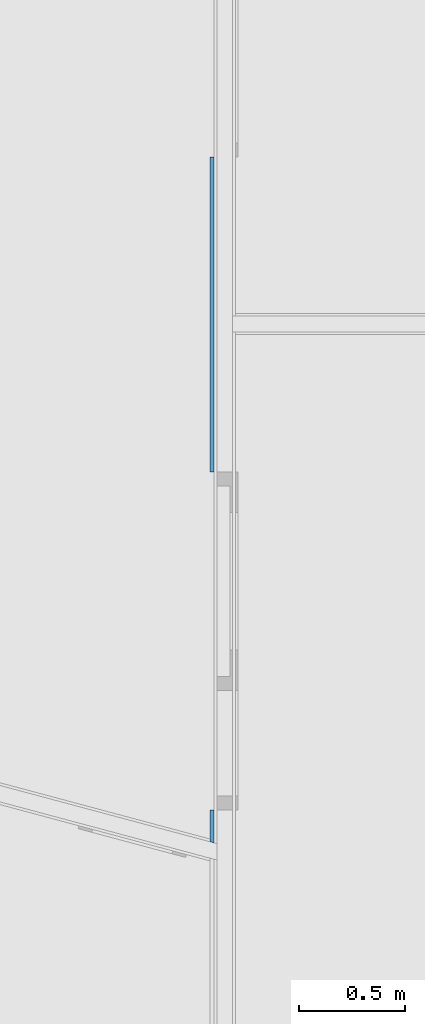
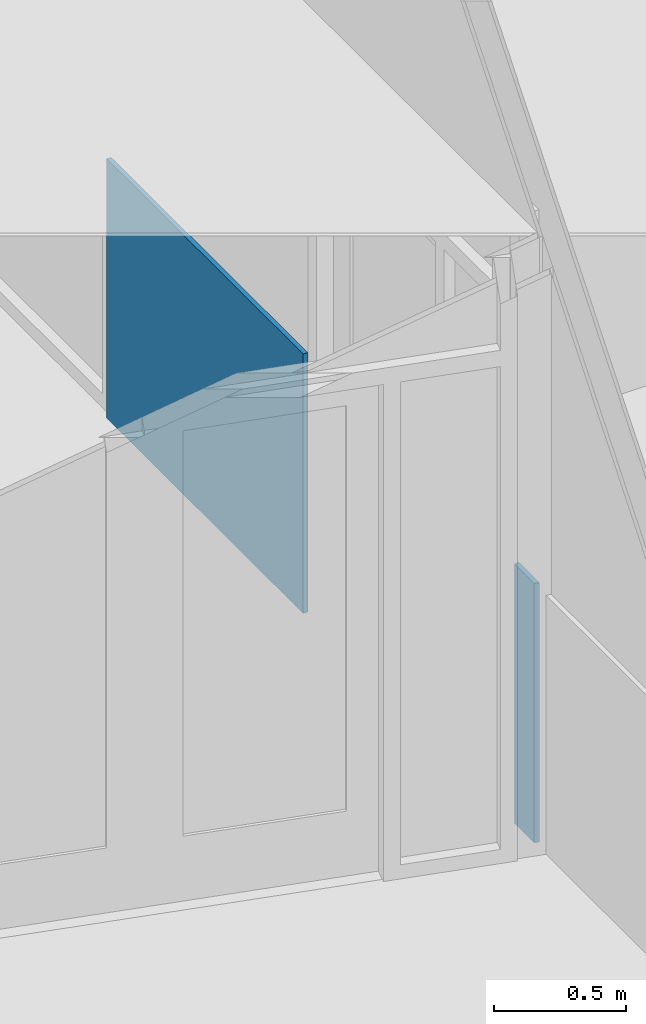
# One storey, part 13 of 167: 2 walls.
"""IFC2X3 building model written with IfcOpenShell, lengths in millimetres."""

from ifc_helpers import new_model, entity, si_unit, converted_unit, derived_unit, money_unit, direction, frame, origin_with_axes, place, context, subcontext, project, spatial, faceted_brep, material, type_object, element, save


model = new_model("IFC2X3")

# Units and contexts
model_context = context("Model", 3, precision=0.01, world=origin_with_axes(), true_north=direction((0.0, 1.0)))
plan_context = context("Plan", 3, precision=0.01, world=origin_with_axes(), true_north=direction((0.0, 1.0)))
body_context = subcontext(model_context, "Body", "Model", "MODEL_VIEW")
ifc_project = project(units=[si_unit("LENGTHUNIT", "METRE", prefix="MILLI"), si_unit("AREAUNIT", "SQUARE_METRE"), si_unit("VOLUMEUNIT", "CUBIC_METRE"), converted_unit("PLANEANGLEUNIT", "DEGREE", entity("IfcPlaneAngleMeasure", 0.0174532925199), si_unit("PLANEANGLEUNIT", "RADIAN"), dimensions=[0, 0, 0, 0, 0, 0, 0]), si_unit("SOLIDANGLEUNIT", "STERADIAN"), money_unit("EUR"), converted_unit("TIMEUNIT", "Year", entity("IfcTimeMeasure", 31556926.0), si_unit("TIMEUNIT", "SECOND"), dimensions=[0, 0, 1, 0, 0, 0, 0]), si_unit("MASSUNIT", "GRAM", prefix="KILO"), si_unit("THERMODYNAMICTEMPERATUREUNIT", "DEGREE_CELSIUS"), si_unit("LUMINOUSINTENSITYUNIT", "LUMEN"), si_unit("ENERGYUNIT", "JOULE", prefix="MEGA"), derived_unit("THERMALCONDUCTANCEUNIT", [(si_unit("POWERUNIT", "WATT"), 1), (si_unit("LENGTHUNIT", "METRE"), -1), (si_unit("THERMODYNAMICTEMPERATUREUNIT", "KELVIN"), -1)]), derived_unit("SPECIFICHEATCAPACITYUNIT", [(si_unit("ENERGYUNIT", "JOULE"), 1), (si_unit("MASSUNIT", "GRAM", prefix="KILO"), -1), (si_unit("THERMODYNAMICTEMPERATUREUNIT", "KELVIN"), -1)]), derived_unit("MASSDENSITYUNIT", [(si_unit("MASSUNIT", "GRAM", prefix="KILO"), 1), (si_unit("VOLUMEUNIT", "CUBIC_METRE"), -1)])], contexts=[model_context, plan_context])

# Site, building, storey
site_placement = place(None, origin_with_axes())
site = spatial("IfcSite", under=ifc_project, at=site_placement, Name="Site", CompositionType="ELEMENT")
building_placement = place(site_placement, origin_with_axes())
building = spatial("IfcBuilding", under=site, at=building_placement, Name="Naam gebouw", CompositionType="ELEMENT")
storey_placement = place(building_placement, origin_with_axes())
storey = spatial("IfcBuildingStorey", under=building, at=storey_placement, Name="Begane grond", CompositionType="ELEMENT", Elevation=0.0)

# Walls
ifc_material = material(Name="Hout - Spaanplaat")
wall_type = type_object("IfcWallType", Name="Hout - Spaanplaat 20", PredefinedType="NOTDEFINED")
wall_1_placement = place(storey_placement, frame((24500.0, 10381.6664466, 0.0), z_axis=(0.0, 0.0, 1.0), x_axis=(0.0, 1.0, 0.0)))
element("IfcWall", 1, at=wall_1_placement, inside=storey, type_object=wall_type, material=ifc_material, Name="21_Wand_Wand-x", context=body_context, shape_type="Brep", body=[
    faceted_brep([(44.181840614, 20.0, 0.0), (193.333553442, 20.0, 0.0), (193.333553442, 0.0, 0.0), (38.8228567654, 0.0, 0.0), (44.181840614, 20.0, 1200.0), (193.333553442, 20.0, 1200.0), (193.333553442, 0.0, 1200.0), (38.8228567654, 0.0, 1200.0)], [[[0, 1, 2, 3]], [[4, 5, 1, 0]], [[2, 1, 5, 6]], [[3, 2, 6, 7]], [[4, 0, 3, 7]], [[7, 6, 5, 4]]]),
])
wall_2_placement = place(storey_placement, frame((24500.0, 12175.0, 0.0), z_axis=(0.0, 0.0, 1.0), x_axis=(0.0, 1.0, 0.0)))
element("IfcWall", 2, at=wall_2_placement, inside=storey, type_object=wall_type, material=ifc_material, Name="21_Wand_Wand-x", context=body_context, shape_type="Brep", body=[
    faceted_brep([(0.0, 20.0, 0.0), (1489.66540488, 20.0, 0.0), (1489.66540488, 0.0, 0.0), (0.0, 0.0, 0.0), (0.0, 20.0, 1200.0), (1489.66540488, 20.0, 1200.0), (1489.66540488, 0.0, 1200.0), (0.0, 0.0, 1200.0)], [[[0, 1, 2, 3]], [[4, 5, 1, 0]], [[2, 1, 5, 6]], [[3, 2, 6, 7]], [[4, 0, 3, 7]], [[7, 6, 5, 4]]]),
])

save(model, "model.ifc")
